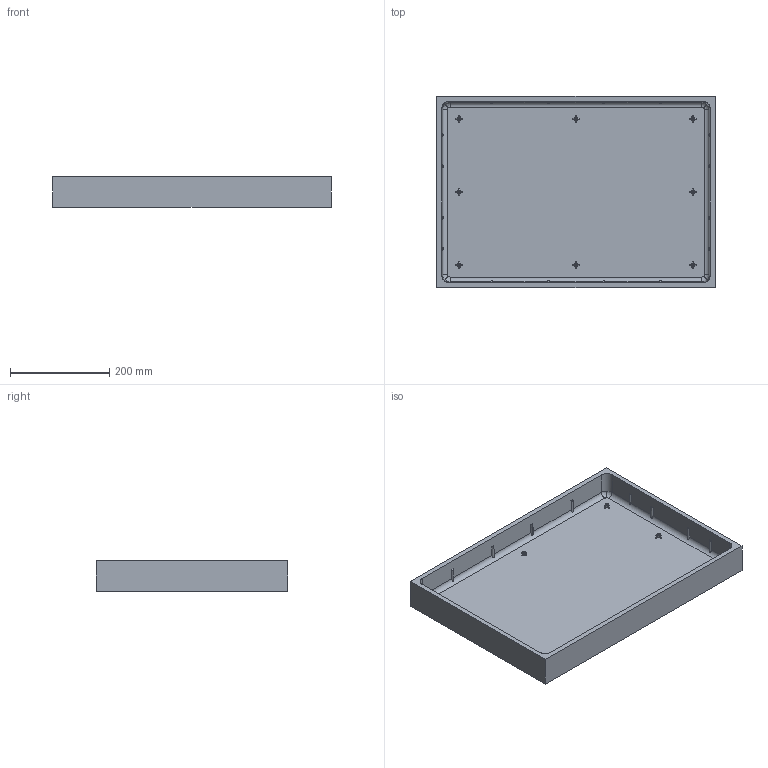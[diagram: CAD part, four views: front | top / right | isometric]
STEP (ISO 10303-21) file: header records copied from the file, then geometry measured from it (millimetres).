
FILE_DESCRIPTION (( 'STEP AP203' ), '1' );
FILE_NAME ('INSIDE drawing lid 6700 2015 1.1.STEP', '2016-06-06T17:31:07', ( 'Master' ), ( '' ), 'SwSTEP 2.0', 'SolidWorks 2016', '' );
FILE_SCHEMA (( 'CONFIG_CONTROL_DESIGN' ));
Length unit declared in the file: millimetre
Products named in the file (1): INSIDE drawing lid 6700 2015 1.1
Bounding box: 560 x 385 x 61 mm (x, y, z)
Volume: 3231947.2 mm3; surface area: 629654.4 mm2
Topology: 1 solids, 1 shells, 883 faces, 2100 edges, 1172 vertices
Faces by surface type: bspline 304, cylinder 168, plane 167, torus 112, cone 68, sphere 64
Entity records: 31573 total; most frequent: CARTESIAN_POINT 13938, ORIENTED_EDGE 4072, DIRECTION 3344, EDGE_CURVE 2036, AXIS2_PLACEMENT_3D 1412, VERTEX_POINT 1172, EDGE_LOOP 900, FACE_OUTER_BOUND 883
